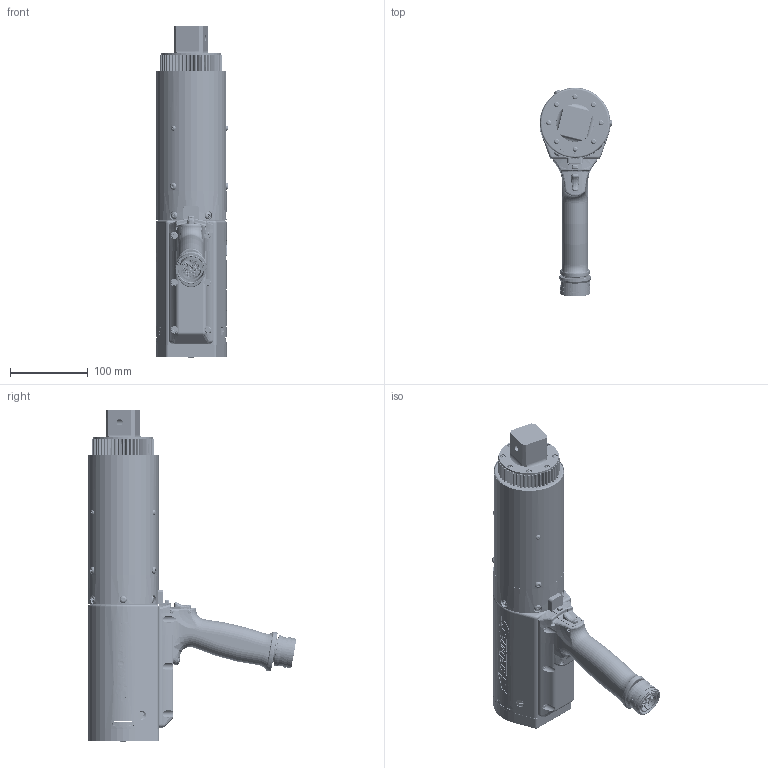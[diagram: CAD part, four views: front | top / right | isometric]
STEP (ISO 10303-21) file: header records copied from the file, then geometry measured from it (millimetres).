
FILE_DESCRIPTION (( 'STEP AP214' ), '1' );
FILE_NAME ('AEP4B884200B, AEP4W4650B, AEP4B885000B, AEP4W885000B.STEP', '2021-03-19T19:07:35', ( '' ), ( '' ), 'SwSTEP 2.0', 'SolidWorks 2020', '' );
FILE_SCHEMA (( 'AUTOMOTIVE_DESIGN' ));
Length unit declared in the file: inch
Products named in the file (1): AEP4B884200B, AEP4W4650B, AEP4B885000B, AEP4W885000B
Bounding box: 93.88 x 268.76 x 427.61 mm (x, y, z)
Volume: 934309.9 mm3; surface area: 487476.2 mm2
Topology: 113 solids, 113 shells, 4974 faces, 12462 edges, 7919 vertices
Faces by surface type: cylinder 1818, plane 1444, bspline 713, cone 653, torus 320, sphere 26
Entity records: 265511 total; most frequent: CARTESIAN_POINT 87210, ORIENTED_EDGE 24864, DIRECTION 21452, EDGE_CURVE 12432, AXIS2_PLACEMENT_3D 8163, VERTEX_POINT 7917, EDGE_LOOP 5465, VECTOR 5126
